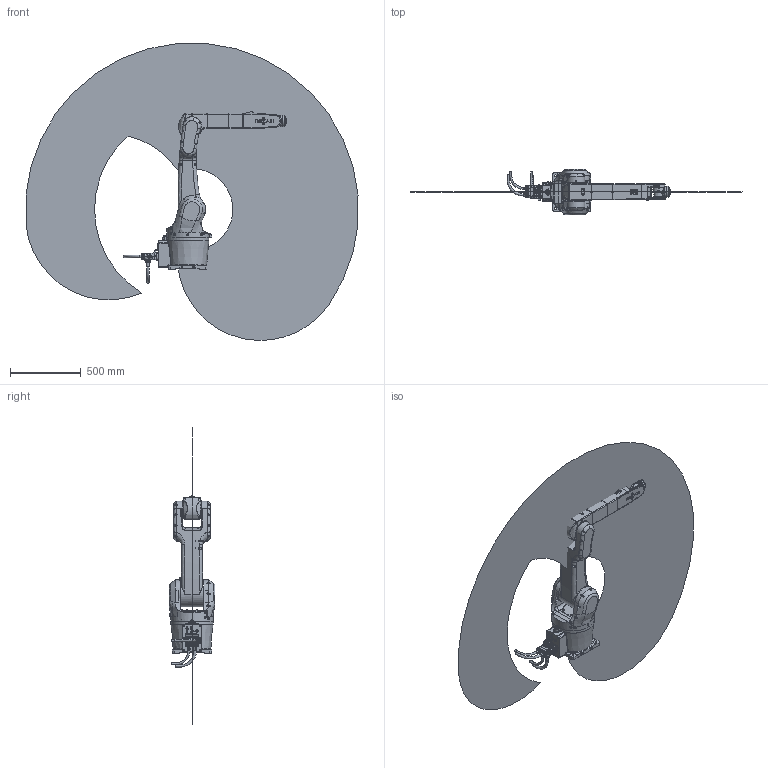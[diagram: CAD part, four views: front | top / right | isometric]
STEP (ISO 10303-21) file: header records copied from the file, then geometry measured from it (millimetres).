
FILE_DESCRIPTION(/* description */ (''),/* implementation_level */ '2;1');
FILE_NAME(/* name */ 'XB7s-R1206-XBC3线束 简化模型(20220426).stp',/* time_stamp */ '2022-04-26T15:59:42+08:00',/* author */ (''),/* organization */ (''),/* preprocessor_version */ 'ST-DEVELOPER v16',/* originating_system */ 'SIEMENS PLM Software NX 10.0',/* authorisation */ '');
FILE_SCHEMA (('CONFIG_CONTROL_DESIGN'));
Products named in the file (9): XB7-3Dwork-A; XB7-shuchu-A; XB7&12-shouwan-A; XB7&12-xiaobihou-A; XB7-xiaobiqian-Clogo; XB7-dabi-A; XB7-yao-A; XB7-base-A; XB7s-R1206-XBC3线束 简化模型(
20220426)
Assembly tree (8 placements, depth 2):
  XB7s-R1206-XBC3线束 简化模型(
20220426)
    XB7-base-A
    XB7-yao-A
    XB7-dabi-A
    XB7-xiaobiqian-Clogo
    XB7&12-xiaobihou-A
    XB7&12-shouwan-A
    XB7-shuchu-A
    XB7-3Dwork-A
Bounding box: 2343.17 x 324 x 2095.75 mm (x, y, z)
Volume: 51757143.2 mm3; surface area: 4997565.3 mm2
Topology: 9 solids, 91 shells, 4339 faces, 10291 edges, 6272 vertices
Faces by surface type: plane 1579, cylinder 1003, bspline 773, cone 460, torus 274, extrusion 198, sphere 52
Full cylindrical faces by diameter (mm): 2.5 x8, 3.3 x6, 3.4 x18, 3.838 x8, 4.2 x10, 4.5 x8, 4.826 x3, 5 x3, 5.5 x61, 5.6 x10, 6.8 x1, 7 x20, 7.76 x1, 8 x2, 8.5 x15, 9.5 x3, 10 x23, 10.701 x2, 10.8 x3, 11.6 x16, 12 x4, 12.5 x4, 13 x1, 13.5 x4, 14 x1, 15 x6, 20 x1, 22 x2, 40 x1, 50 x3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
Entity records: 190036 total; most frequent: CARTESIAN_POINT 100104, ORIENTED_EDGE 18828, DIRECTION 16569, EDGE_CURVE 9417, AXIS2_PLACEMENT_3D 6565, VERTEX_POINT 6060, EDGE_LOOP 5105, ADVANCED_FACE 4339
